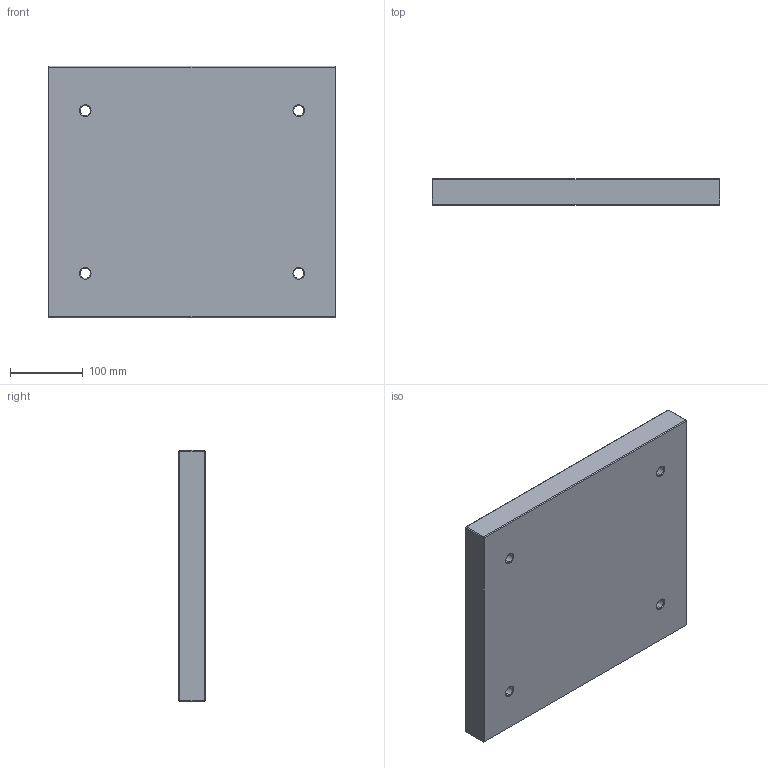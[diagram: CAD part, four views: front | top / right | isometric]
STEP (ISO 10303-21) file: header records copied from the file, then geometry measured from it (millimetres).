
FILE_DESCRIPTION (( 'STEP AP214' ), '1' );
FILE_NAME ('346x346x36.STEP', '2020-03-09T17:43:39', ( 'August' ), ( '' ), 'SwSTEP 2.0', 'SolidWorks 2018', '' );
FILE_SCHEMA (( 'AUTOMOTIVE_DESIGN' ));
Length unit declared in the file: millimetre
Products named in the file (1): 346x346x36
Bounding box: 396 x 36 x 346 mm (x, y, z)
Volume: 4899663.9 mm3; surface area: 331547.7 mm2
Topology: 1 solids, 1 shells, 62 faces, 128 edges, 72 vertices
Faces by surface type: plane 30, cone 16, cylinder 16
Entity records: 1650 total; most frequent: DIRECTION 302, CARTESIAN_POINT 263, ORIENTED_EDGE 256, EDGE_CURVE 128, AXIS2_PLACEMENT_3D 111, VECTOR 80, LINE 80, EDGE_LOOP 74
